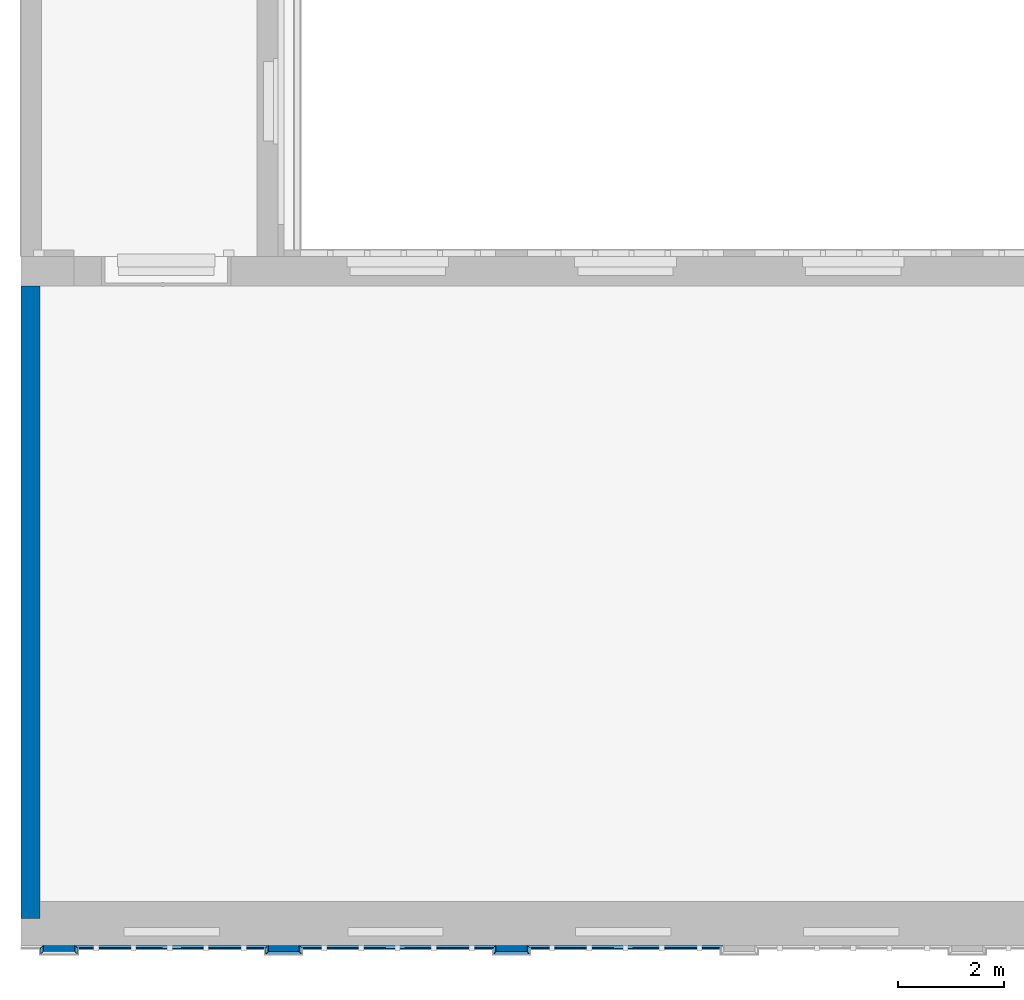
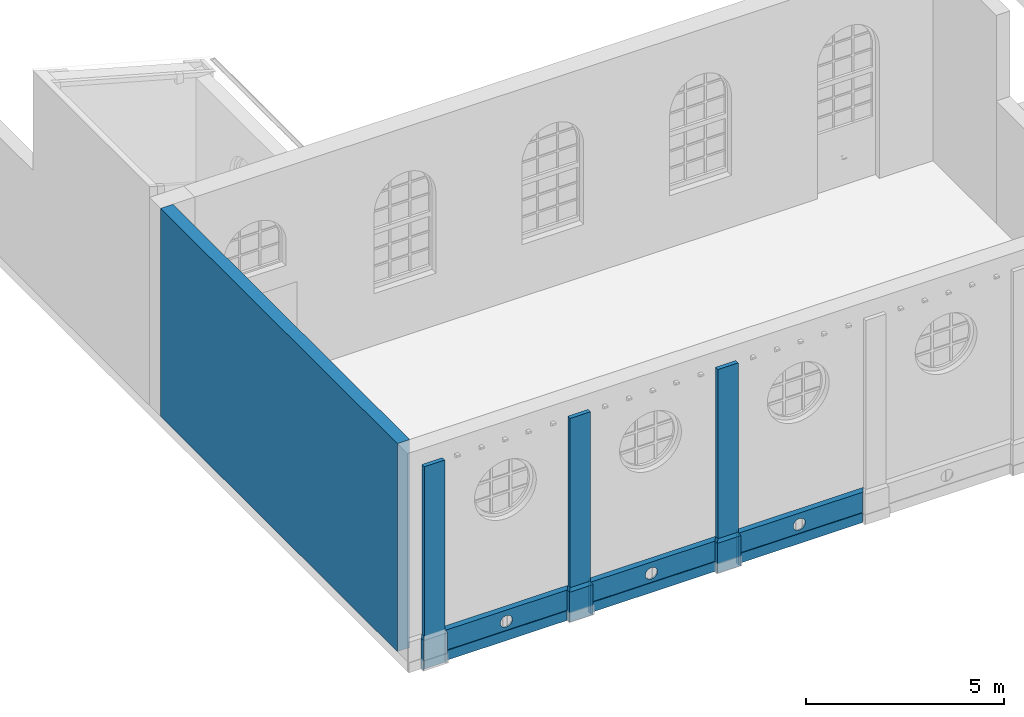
"""IFC4 building model written with IfcOpenShell, lengths in metres."""

from ifc_helpers import new_model, entity, si_unit, converted_unit, derived_unit, frame, frame_2d, origin, origin_with_axes, place, context, subcontext, project, spatial, polyline, rectangle, outline, extrude, clip, halfspace, material, layer, layer_set, layer_usage, element, save


model = new_model("IFC4")

# Units and contexts
model_context = context("Model", 3, precision=1e-05, world=origin())
body_context = subcontext(model_context, "Body", "Model", "MODEL_VIEW")
ifc_project = project(units=[si_unit("LENGTHUNIT", "METRE"), si_unit("AREAUNIT", "SQUARE_METRE"), si_unit("VOLUMEUNIT", "CUBIC_METRE"), si_unit("MASSUNIT", "GRAM", prefix="KILO"), converted_unit("PLANEANGLEUNIT", "DEGREE", entity("IfcPlaneAngleMeasure", 0.0174532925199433), si_unit("PLANEANGLEUNIT", "RADIAN"), dimensions=[0, 0, 0, 0, 0, 0, 0]), derived_unit("THERMALTRANSMITTANCEUNIT", [(si_unit("POWERUNIT", "WATT"), 1), (si_unit("THERMODYNAMICTEMPERATUREUNIT", "KELVIN"), -1), (si_unit("LENGTHUNIT", "METRE"), -2)]), derived_unit("VOLUMETRICFLOWRATEUNIT", [(si_unit("LENGTHUNIT", "METRE"), 3), (converted_unit("TIMEUNIT", "hour", entity("IfcTimeMeasure", 3600.0), si_unit("TIMEUNIT", "SECOND"), dimensions=[0, 0, 1, 0, 0, 0, 0]), -1), (si_unit("LENGTHUNIT", "METRE"), -1)])], contexts=[model_context])

# Building, storeys
building_placement = place(None, origin())
building = spatial("IfcBuilding", under=ifc_project, at=building_placement, Name="Bestandsgebäude A - Sporthalle / Wohnhaus (TB 100-499)   ANPASSEN !!!", CompositionType="ELEMENT")
storey_1_placement = place(building_placement, origin())
storey_1 = spatial("IfcBuildingStorey", under=building, at=storey_1_placement, Name="Geb. A Erdgeschoss (TB 200-249)", CompositionType="ELEMENT", Elevation=0.0)
storey_2_placement = place(storey_1_placement, origin())
storey_2 = spatial("IfcBuildingStorey", under=storey_1, at=storey_2_placement, Name="Architektur (TB 200-209)", CompositionType="PARTIAL")

# Walls
ifc_material_1 = material(Name="concrete")
ifc_layer_1 = layer(ifc_material_1, 0.36)
ifc_layer_set_1 = layer_set([ifc_layer_1])
ifc_layer_usage_1 = layer_usage(ifc_layer_set_1, "AXIS2", "POSITIVE", 0.0)
wall_1_placement = place(storey_2_placement, frame((-31.37, 12.44, 0.0), z_axis=(0.0, 0.0, 1.0), x_axis=(0.0, -1.0, 0.0)))
element("IfcWall", 1, at=wall_1_placement, inside=storey_2, material=ifc_layer_usage_1, Name="reinforced - bearing", PredefinedType="USERDEFINED", context=body_context, shape_type="SweptSolid", body=[
    extrude(rectangle(XDim=11.93, YDim=0.36, at=frame_2d((5.965, 0.18), x_axis=(1.0, 0.0))), origin_with_axes(), (0.0, 0.0, 1.0), 6.4),
])
ifc_material_2 = material(Name="concrete")
ifc_layer_2 = layer(ifc_material_2, 0.02)
ifc_layer_set_2 = layer_set([ifc_layer_2])
ifc_layer_usage_2 = layer_usage(ifc_layer_set_2, "AXIS2", "POSITIVE", 0.0)
wall_2_placement = place(storey_2_placement, frame((-26.775, -0.0500000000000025, -0.3), z_axis=(0.0, 0.0, 1.0), x_axis=(-1.0, -6.3249453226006e-16, 0.0)))
element("IfcWall", 2, at=wall_2_placement, inside=storey_2, material=ifc_layer_usage_2, Name="reinforced - bearing", PredefinedType="USERDEFINED", context=body_context, shape_type="SweptSolid", body=[
    extrude(rectangle(XDim=3.505, YDim=0.02, at=frame_2d((1.7525, 0.00999999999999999), x_axis=(1.0, 0.0))), origin_with_axes(), (0.0, 0.0, 1.0), 0.3),
])
ifc_material_3 = material(Name="concrete")
ifc_layer_3 = layer(ifc_material_3, 0.02)
ifc_layer_set_3 = layer_set([ifc_layer_3])
ifc_layer_usage_3 = layer_usage(ifc_layer_set_3, "AXIS2", "POSITIVE", 0.0)
wall_3_placement = place(storey_2_placement, frame((-22.455, -0.0500000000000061, -0.3), z_axis=(0.0, 0.0, 1.0), x_axis=(-1.0, 3.85949396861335e-16, 0.0)))
element("IfcWall", 3, at=wall_3_placement, inside=storey_2, material=ifc_layer_usage_3, Name="reinforced - bearing", PredefinedType="USERDEFINED", context=body_context, shape_type="SweptSolid", body=[
    extrude(rectangle(XDim=3.59, YDim=0.02, at=frame_2d((1.795, 0.01), x_axis=(1.0, 0.0))), origin_with_axes(), (0.0, 0.0, 1.0), 0.3),
])
ifc_material_4 = material(Name="concrete")
ifc_layer_4 = layer(ifc_material_4, 0.02)
ifc_layer_set_4 = layer_set([ifc_layer_4])
ifc_layer_usage_4 = layer_usage(ifc_layer_set_4, "AXIS2", "POSITIVE", 0.0)
wall_4_placement = place(storey_2_placement, frame((-18.175, -0.0500000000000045, -0.3), z_axis=(0.0, 0.0, 1.0), x_axis=(-1.0, -5.57288420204e-17, 0.0)))
element("IfcWall", 4, at=wall_4_placement, inside=storey_2, material=ifc_layer_usage_4, Name="reinforced - bearing", PredefinedType="USERDEFINED", context=body_context, shape_type="SweptSolid", body=[
    extrude(rectangle(XDim=3.57, YDim=0.02, at=frame_2d((1.785, 0.01), x_axis=(1.0, 0.0))), origin_with_axes(), (0.0, 0.0, 1.0), 0.3),
])
ifc_material_5 = material(Name="concrete")
ifc_layer_5 = layer(ifc_material_5, 0.05)
ifc_layer_set_5 = layer_set([ifc_layer_5])
ifc_layer_usage_5 = layer_usage(ifc_layer_set_5, "AXIS2", "POSITIVE", 0.0)
wall_5_placement = place(storey_2_placement, frame((-30.95, -0.119999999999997, -0.3), z_axis=(0.0, 0.0, 1.0), x_axis=(0.0, 1.0, 0.0)))
element("IfcWall", 5, at=wall_5_placement, inside=storey_2, material=ifc_layer_usage_5, Name="reinforced - bearing", PredefinedType="USERDEFINED", context=body_context, shape_type="Clipping", body=[
    clip(extrude(outline(polyline([(0.05, -0.05), (0.170000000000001, -0.05), (0.119999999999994, 0.0), (0.0, 0.0), (0.05, -0.05)])), frame((-0.05, 0.05, 0.0), z_axis=(0.0, 0.0, 1.0), x_axis=(1.0, 0.0, 0.0)), (0.0, 0.0, 1.0), 1.02), halfspace(frame((0.0349999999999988, 0.025, 0.97), z_axis=(0.0, -0.894427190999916, -0.447213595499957), x_axis=(1.0, 0.0, 0.0)), True)),
])
ifc_material_6 = material(Name="concrete")
ifc_layer_6 = layer(ifc_material_6, 0.05)
ifc_layer_set_6 = layer_set([ifc_layer_6])
ifc_layer_usage_6 = layer_usage(ifc_layer_set_6, "AXIS2", "POSITIVE", 0.0)
wall_6_placement = place(storey_2_placement, frame((-30.35, 0.0, -0.3), z_axis=(0.0, 0.0, 1.0), x_axis=(0.0, -1.0, 0.0)))
element("IfcWall", 6, at=wall_6_placement, inside=storey_2, material=ifc_layer_usage_6, Name="reinforced - bearing", PredefinedType="USERDEFINED", context=body_context, shape_type="Clipping", body=[
    clip(extrude(outline(polyline([(-0.170000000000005, 0.0), (-0.0500000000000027, 0.0), (0.0, 0.05), (-0.119999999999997, 0.05), (-0.170000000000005, 0.0)])), frame((0.170000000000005, 0.0, 0.0), z_axis=(0.0, 0.0, 1.0), x_axis=(1.0, 0.0, 0.0)), (0.0, 0.0, 1.0), 1.01999999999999), halfspace(frame((0.0850000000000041, 0.025, 0.969999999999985), z_axis=(8.30424224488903e-16, -0.894427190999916, -0.447213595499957), x_axis=(1.0, 0.0, 1.89478062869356e-15)), True)),
])

# Wall, opening
ifc_material_7 = material(Name="concrete")
ifc_layer_7 = layer(ifc_material_7, 0.05)
ifc_layer_set_7 = layer_set([ifc_layer_7])
ifc_layer_usage_7 = layer_usage(ifc_layer_set_7, "AXIS2", "POSITIVE", 0.0)
wall_7_placement = place(storey_2_placement, frame((-26.705, 0.0, -0.3), z_axis=(0.0, 0.0, 1.0), x_axis=(-1.0, 0.0, 0.0)))
wall_7 = element("IfcWall", 7, at=wall_7_placement, inside=storey_2, material=ifc_layer_usage_7, Name="reinforced - bearing", PredefinedType="USERDEFINED", context=body_context, shape_type="Clipping", body=[
    clip(extrude(outline(polyline([(-3.645, -0.05), (0.0, -0.05), (-0.05, 0.0), (-3.59500000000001, 0.0), (-3.645, -0.05)])), frame((3.645, 0.05, 0.0), z_axis=(0.0, 0.0, 1.0), x_axis=(1.0, 0.0, 0.0)), (0.0, 0.0, 1.0), 1.02), halfspace(frame((1.8225, 0.025, 0.97), z_axis=(0.0, -0.894427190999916, -0.447213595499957), x_axis=(1.0, 0.0, 0.0)), True)),
])
opening_1_placement = place(wall_7_placement, frame((1.6401188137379, 0.0, 0.4), z_axis=(0.0, 1.0, 0.0), x_axis=(0.0, 0.0, 1.0)))
element("IfcOpeningElement", 8, at=opening_1_placement, cuts=wall_7, Name="Window opening", PredefinedType="OPENING", context=body_context, shape_type="SweptSolid", body=[
    extrude(outline(polyline([(0.174999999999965, 0.35), (0.19329248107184, 0.349041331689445), (0.211384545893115, 0.346175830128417), (0.229077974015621, 0.341434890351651), (0.246178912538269, 0.334870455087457), (0.262499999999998, 0.326554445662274), (0.277862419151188, 0.316577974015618), (0.292097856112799, 0.305050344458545), (0.305050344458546, 0.292097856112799), (0.316577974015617, 0.277862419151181), (0.326554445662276, 0.2625), (0.334870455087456, 0.246178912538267), (0.341434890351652, 0.229077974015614), (0.346175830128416, 0.21138454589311), (0.349041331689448, 0.19329248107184), (0.35, 0.175), (0.349041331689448, 0.156707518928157), (0.346175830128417, 0.138615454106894), (0.341434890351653, 0.120922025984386), (0.334870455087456, 0.103821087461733), (0.326554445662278, 0.0875), (0.316577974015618, 0.0721375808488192), (0.305050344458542, 0.0579021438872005), (0.292097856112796, 0.0449496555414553), (0.277862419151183, 0.0334220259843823), (0.262500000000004, 0.0234455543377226), (0.246178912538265, 0.0151295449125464), (0.229077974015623, 0.00856510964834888), (0.211384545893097, 0.00382416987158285), (0.19329248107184, 0.000958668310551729), (0.175, 0.0), (0.156707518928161, 0.000958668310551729), (0.138615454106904, 0.00382416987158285), (0.120922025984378, 0.00856510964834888), (0.103821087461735, 0.0151295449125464), (0.0874999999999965, 0.0234455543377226), (0.0721375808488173, 0.0334220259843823), (0.0579021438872, 0.0449496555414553), (0.0449496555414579, 0.0579021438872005), (0.0334220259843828, 0.0721375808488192), (0.0234455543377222, 0.0875), (0.015129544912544, 0.103821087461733), (0.00856510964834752, 0.120922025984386), (0.00382416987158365, 0.138615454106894), (0.000958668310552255, 0.156707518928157), (0.0, 0.175), (0.000958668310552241, 0.19329248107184), (0.00382416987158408, 0.21138454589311), (0.00856510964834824, 0.229077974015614), (0.0151295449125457, 0.246178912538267), (0.0234455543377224, 0.2625), (0.0334220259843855, 0.277862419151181), (0.0449496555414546, 0.292097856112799), (0.0579021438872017, 0.305050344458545), (0.0721375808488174, 0.316577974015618), (0.0874999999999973, 0.326554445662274), (0.103821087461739, 0.334870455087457), (0.12092202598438, 0.341434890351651), (0.138615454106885, 0.346175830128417), (0.156707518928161, 0.349041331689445), (0.174999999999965, 0.35)])), origin_with_axes(), (0.0, 0.0, 1.0), 0.05),
])

# Walls
ifc_material_8 = material(Name="concrete")
ifc_layer_8 = layer(ifc_material_8, 0.05)
ifc_layer_set_8 = layer_set([ifc_layer_8])
ifc_layer_usage_8 = layer_usage(ifc_layer_set_8, "AXIS2", "POSITIVE", 0.0)
wall_8_placement = place(storey_2_placement, frame((-26.705, -0.119999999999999, -0.3), z_axis=(0.0, 0.0, 1.0), x_axis=(0.0, 1.0, 0.0)))
element("IfcWall", 9, at=wall_8_placement, inside=storey_2, material=ifc_layer_usage_8, Name="reinforced - bearing", PredefinedType="USERDEFINED", context=body_context, shape_type="Clipping", body=[
    clip(extrude(outline(polyline([(0.05, -0.05), (0.170000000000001, -0.05), (0.119999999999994, 0.0), (0.0, 0.0), (0.05, -0.05)])), frame((-0.05, 0.05, 0.0), z_axis=(0.0, 0.0, 1.0), x_axis=(1.0, 0.0, 0.0)), (0.0, 0.0, 1.0), 1.02), halfspace(frame((0.0349999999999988, 0.025, 0.97), z_axis=(0.0, -0.894427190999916, -0.447213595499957), x_axis=(1.0, 0.0, 0.0)), True)),
])
ifc_material_9 = material(Name="concrete")
ifc_layer_9 = layer(ifc_material_9, 0.05)
ifc_layer_set_9 = layer_set([ifc_layer_9])
ifc_layer_usage_9 = layer_usage(ifc_layer_set_9, "AXIS2", "POSITIVE", 0.0)
wall_9_placement = place(storey_2_placement, frame((-26.115, 0.0, -0.3), z_axis=(0.0, 0.0, 1.0), x_axis=(0.0, -1.0, 0.0)))
element("IfcWall", 10, at=wall_9_placement, inside=storey_2, material=ifc_layer_usage_9, Name="reinforced - bearing", PredefinedType="USERDEFINED", context=body_context, shape_type="Clipping", body=[
    clip(extrude(outline(polyline([(-0.170000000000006, 0.0), (-0.0500000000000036, 0.0), (0.0, 0.05), (-0.119999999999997, 0.05), (-0.170000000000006, 0.0)])), frame((0.170000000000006, 0.0, 0.0), z_axis=(0.0, 0.0, 1.0), x_axis=(1.0, 0.0, 0.0)), (0.0, 0.0, 1.0), 1.01999999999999), halfspace(frame((0.0850000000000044, 0.025, 0.969999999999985), z_axis=(8.30424224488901e-16, -0.894427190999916, -0.447213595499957), x_axis=(1.0, 0.0, 1.89478062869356e-15)), True)),
])
ifc_material_10 = material(Name="concrete")
ifc_layer_10 = layer(ifc_material_10, 0.05)
ifc_layer_set_10 = layer_set([ifc_layer_10])
ifc_layer_usage_10 = layer_usage(ifc_layer_set_10, "AXIS2", "POSITIVE", 0.0)
wall_10_placement = place(storey_2_placement, frame((-26.115, -0.119999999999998, -0.3), z_axis=(0.0, 0.0, 1.0), x_axis=(-1.0, 5.05810083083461e-16, 0.0)))
element("IfcWall", 11, at=wall_10_placement, inside=storey_2, material=ifc_layer_usage_10, Name="reinforced - bearing", PredefinedType="USERDEFINED", context=body_context, shape_type="Clipping", body=[
    clip(extrude(outline(polyline([(-0.64, -0.0500000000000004), (-0.05, -0.0500000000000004), (0.0, 0.0), (-0.689999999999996, 0.0), (-0.64, -0.0500000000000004)])), frame((0.64, 0.0500000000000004, 0.0), z_axis=(0.0, 0.0, 1.0), x_axis=(1.0, 0.0, 0.0)), (0.0, 0.0, 1.0), 1.02), halfspace(frame((0.295000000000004, 0.025, 0.97), z_axis=(3.40596953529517e-16, -0.894427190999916, -0.447213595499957), x_axis=(1.0, 0.0, 7.70758221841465e-16)), True)),
])
ifc_material_11 = material(Name="concrete")
ifc_layer_11 = layer(ifc_material_11, 0.05)
ifc_layer_set_11 = layer_set([ifc_layer_11])
ifc_layer_usage_11 = layer_usage(ifc_layer_set_11, "AXIS2", "POSITIVE", 0.0)
wall_11_placement = place(storey_2_placement, frame((-22.405, -0.119999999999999, -0.3), z_axis=(0.0, 0.0, 1.0), x_axis=(0.0, 1.0, 0.0)))
element("IfcWall", 12, at=wall_11_placement, inside=storey_2, material=ifc_layer_usage_11, Name="reinforced - bearing", PredefinedType="USERDEFINED", context=body_context, shape_type="Clipping", body=[
    clip(extrude(outline(polyline([(0.05, -0.05), (0.170000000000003, -0.05), (0.119999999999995, 0.0), (0.0, 0.0), (0.05, -0.05)])), frame((-0.05, 0.05, 0.0), z_axis=(0.0, 0.0, 1.0), x_axis=(1.0, 0.0, 0.0)), (0.0, 0.0, 1.0), 1.02000000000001), halfspace(frame((0.0349999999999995, 0.025, 0.970000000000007), z_axis=(0.0, -0.894427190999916, -0.447213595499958), x_axis=(1.0, 0.0, 0.0)), True)),
])
ifc_material_12 = material(Name="concrete")
ifc_layer_12 = layer(ifc_material_12, 0.05)
ifc_layer_set_12 = layer_set([ifc_layer_12])
ifc_layer_usage_12 = layer_usage(ifc_layer_set_12, "AXIS2", "POSITIVE", 0.0)
wall_12_placement = place(storey_2_placement, frame((-21.815, 0.0, -0.3), z_axis=(0.0, 0.0, 1.0), x_axis=(0.0, -1.0, 0.0)))
element("IfcWall", 13, at=wall_12_placement, inside=storey_2, material=ifc_layer_usage_12, Name="reinforced - bearing", PredefinedType="USERDEFINED", context=body_context, shape_type="Clipping", body=[
    clip(extrude(outline(polyline([(-0.170000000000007, 0.0), (-0.050000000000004, 0.0), (0.0, 0.05), (-0.119999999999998, 0.05), (-0.170000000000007, 0.0)])), frame((0.170000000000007, 0.0, 0.0), z_axis=(0.0, 0.0, 1.0), x_axis=(1.0, 0.0, 0.0)), (0.0, 0.0, 1.0), 1.01999999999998), halfspace(frame((0.0850000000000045, 0.025, 0.969999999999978), z_axis=(8.30424224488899e-16, -0.894427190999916, -0.447213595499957), x_axis=(1.0, 0.0, 1.89478062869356e-15)), True)),
])
ifc_material_13 = material(Name="concrete")
ifc_layer_13 = layer(ifc_material_13, 0.05)
ifc_layer_set_13 = layer_set([ifc_layer_13])
ifc_layer_usage_13 = layer_usage(ifc_layer_set_13, "AXIS2", "POSITIVE", 0.0)
wall_13_placement = place(storey_2_placement, frame((-21.815, -0.119999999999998, -0.3), z_axis=(0.0, 0.0, 1.0), x_axis=(-1.0, 5.05810083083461e-16, 0.0)))
element("IfcWall", 14, at=wall_13_placement, inside=storey_2, material=ifc_layer_usage_13, Name="reinforced - bearing", PredefinedType="USERDEFINED", context=body_context, shape_type="Clipping", body=[
    clip(extrude(outline(polyline([(-0.64, -0.0500000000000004), (-0.05, -0.0500000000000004), (0.0, 0.0), (-0.689999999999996, 0.0), (-0.64, -0.0500000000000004)])), frame((0.64, 0.0500000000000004, 0.0), z_axis=(0.0, 0.0, 1.0), x_axis=(1.0, 0.0, 0.0)), (0.0, 0.0, 1.0), 1.02), halfspace(frame((0.295, 0.025, 0.97), z_axis=(3.40596953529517e-16, -0.894427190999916, -0.447213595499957), x_axis=(1.0, 0.0, 7.70758221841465e-16)), True)),
])

# Wall, opening
ifc_material_14 = material(Name="concrete")
ifc_layer_14 = layer(ifc_material_14, 0.05)
ifc_layer_set_14 = layer_set([ifc_layer_14])
ifc_layer_usage_14 = layer_usage(ifc_layer_set_14, "AXIS2", "POSITIVE", 0.0)
wall_14_placement = place(storey_2_placement, frame((-22.405, 0.0, -0.3), z_axis=(0.0, 0.0, 1.0), x_axis=(-1.0, 4.89858719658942e-16, 0.0)))
wall_14 = element("IfcWall", 15, at=wall_14_placement, inside=storey_2, material=ifc_layer_usage_14, Name="reinforced - bearing", PredefinedType="USERDEFINED", context=body_context, shape_type="Clipping", body=[
    clip(extrude(outline(polyline([(-3.71, -0.0500000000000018), (0.0, -0.0500000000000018), (-0.05, 0.0), (-3.66000000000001, 0.0), (-3.71, -0.0500000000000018)])), frame((3.71, 0.0500000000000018, 0.0), z_axis=(0.0, 0.0, 1.0), x_axis=(1.0, 0.0, 0.0)), (0.0, 0.0, 1.0), 1.02), halfspace(frame((1.855, 0.025, 0.970000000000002), z_axis=(4.38698612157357e-16, -0.894427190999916, -0.447213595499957), x_axis=(1.0, -4.34920110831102e-19, 9.80587279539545e-16)), True)),
])
opening_2_placement = place(wall_14_placement, frame((1.71985733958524, 0.0, 0.4), z_axis=(0.0, 1.0, 0.0), x_axis=(0.0, 0.0, 1.0)))
element("IfcOpeningElement", 16, at=opening_2_placement, cuts=wall_14, Name="Window opening", PredefinedType="OPENING", context=body_context, shape_type="SweptSolid", body=[
    extrude(outline(polyline([(0.175, 0.35), (0.193292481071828, 0.349041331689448), (0.211384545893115, 0.346175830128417), (0.229077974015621, 0.341434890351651), (0.246178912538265, 0.334870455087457), (0.262500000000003, 0.326554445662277), (0.277862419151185, 0.316577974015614), (0.292097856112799, 0.305050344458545), (0.305050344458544, 0.292097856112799), (0.316577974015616, 0.277862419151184), (0.326554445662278, 0.2625), (0.334870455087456, 0.246178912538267), (0.341434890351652, 0.229077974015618), (0.346175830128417, 0.211384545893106), (0.349041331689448, 0.19329248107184), (0.35, 0.175), (0.349041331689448, 0.156707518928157), (0.346175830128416, 0.138615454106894), (0.341434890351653, 0.120922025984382), (0.334870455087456, 0.103821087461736), (0.326554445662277, 0.0874999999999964), (0.316577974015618, 0.0721375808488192), (0.305050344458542, 0.0579021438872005), (0.2920978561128, 0.0449496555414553), (0.277862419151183, 0.0334220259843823), (0.2625, 0.0234455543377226), (0.24617891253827, 0.0151295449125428), (0.229077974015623, 0.00856510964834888), (0.211384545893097, 0.00382416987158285), (0.19329248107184, 0.000958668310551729), (0.175, 0.0), (0.156707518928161, 0.000958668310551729), (0.138615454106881, 0.00382416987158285), (0.120922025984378, 0.00856510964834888), (0.10382108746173, 0.0151295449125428), (0.0875000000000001, 0.0234455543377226), (0.0721375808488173, 0.0334220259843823), (0.0579021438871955, 0.0449496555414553), (0.0449496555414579, 0.0579021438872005), (0.0334220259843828, 0.0721375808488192), (0.0234455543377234, 0.0874999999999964), (0.015129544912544, 0.103821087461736), (0.00856510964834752, 0.120922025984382), (0.0038241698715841, 0.138615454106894), (0.000958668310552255, 0.156707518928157), (0.0, 0.175), (0.00095866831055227, 0.19329248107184), (0.00382416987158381, 0.211384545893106), (0.00856510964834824, 0.229077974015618), (0.015129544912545, 0.246178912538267), (0.0234455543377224, 0.2625), (0.0334220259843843, 0.277862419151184), (0.0449496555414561, 0.292097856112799), (0.0579021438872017, 0.305050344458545), (0.0721375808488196, 0.316577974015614), (0.0874999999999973, 0.326554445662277), (0.103821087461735, 0.334870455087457), (0.12092202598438, 0.341434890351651), (0.138615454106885, 0.346175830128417), (0.156707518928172, 0.349041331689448), (0.175, 0.35)])), origin_with_axes(), (0.0, 0.0, 1.0), 0.05),
])

ifc_material_15 = material(Name="concrete")
ifc_layer_15 = layer(ifc_material_15, 0.05)
ifc_layer_set_15 = layer_set([ifc_layer_15])
ifc_layer_usage_15 = layer_usage(ifc_layer_set_15, "AXIS2", "POSITIVE", 0.0)
wall_15_placement = place(storey_2_placement, frame((-18.105, 0.0, -0.3), z_axis=(0.0, 0.0, 1.0), x_axis=(-1.0, 4.89858719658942e-16, 0.0)))
wall_15 = element("IfcWall", 17, at=wall_15_placement, inside=storey_2, material=ifc_layer_usage_15, Name="reinforced - bearing", PredefinedType="USERDEFINED", context=body_context, shape_type="Clipping", body=[
    clip(extrude(outline(polyline([(-3.70999999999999, -0.0500000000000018), (0.0, -0.0500000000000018), (-0.05, 0.0), (-3.66, 0.0), (-3.70999999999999, -0.0500000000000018)])), frame((3.70999999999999, 0.0500000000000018, 0.0), z_axis=(0.0, 0.0, 1.0), x_axis=(1.0, 0.0, 0.0)), (0.0, 0.0, 1.0), 1.02), halfspace(frame((1.85499999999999, 0.025, 0.970000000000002), z_axis=(4.38698612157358e-16, -0.894427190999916, -0.447213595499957), x_axis=(1.0, -4.34920110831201e-19, 9.80587279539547e-16)), True)),
])
opening_3_placement = place(wall_15_placement, frame((1.71987495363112, 0.0, 0.4), z_axis=(0.0, 1.0, 0.0), x_axis=(0.0, 0.0, 1.0)))
element("IfcOpeningElement", 18, at=opening_3_placement, cuts=wall_15, Name="Window opening", PredefinedType="OPENING", context=body_context, shape_type="SweptSolid", body=[
    extrude(outline(polyline([(0.175, 0.35), (0.193292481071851, 0.349041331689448), (0.211384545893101, 0.346175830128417), (0.229077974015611, 0.341434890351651), (0.246178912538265, 0.334870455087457), (0.2625, 0.326554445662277), (0.277862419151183, 0.316577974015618), (0.292097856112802, 0.305050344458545), (0.305050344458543, 0.292097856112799), (0.316577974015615, 0.277862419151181), (0.326554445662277, 0.2625), (0.334870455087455, 0.246178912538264), (0.341434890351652, 0.229077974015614), (0.346175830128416, 0.21138454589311), (0.349041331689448, 0.19329248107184), (0.35, 0.175), (0.349041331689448, 0.15670751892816), (0.346175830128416, 0.138615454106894), (0.341434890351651, 0.120922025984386), (0.334870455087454, 0.103821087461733), (0.326554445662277, 0.0875), (0.316577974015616, 0.0721375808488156), (0.305050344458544, 0.0579021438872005), (0.292097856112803, 0.0449496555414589), (0.277862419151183, 0.0334220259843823), (0.2625, 0.0234455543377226), (0.246178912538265, 0.0151295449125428), (0.229077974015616, 0.00856510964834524), (0.21138454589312, 0.00382416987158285), (0.19329248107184, 0.000958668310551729), (0.175, 0.0), (0.156707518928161, 0.000958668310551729), (0.138615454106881, 0.00382416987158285), (0.120922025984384, 0.00856510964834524), (0.103821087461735, 0.0151295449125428), (0.0875000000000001, 0.0234455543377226), (0.0721375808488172, 0.0334220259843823), (0.0579021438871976, 0.0449496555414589), (0.044949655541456, 0.0579021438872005), (0.0334220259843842, 0.0721375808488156), (0.0234455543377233, 0.0875), (0.0151295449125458, 0.103821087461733), (0.00856510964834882, 0.120922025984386), (0.00382416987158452, 0.138615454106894), (0.000958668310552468, 0.15670751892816), (0.0, 0.175), (0.000958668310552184, 0.19329248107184), (0.00382416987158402, 0.21138454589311), (0.00856510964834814, 0.229077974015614), (0.0151295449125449, 0.246178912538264), (0.0234455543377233, 0.2625), (0.0334220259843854, 0.277862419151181), (0.0449496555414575, 0.292097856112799), (0.057902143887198, 0.305050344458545), (0.0721375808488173, 0.316577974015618), (0.0875, 0.326554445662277), (0.103821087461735, 0.334870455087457), (0.120922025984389, 0.341434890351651), (0.138615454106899, 0.346175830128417), (0.156707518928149, 0.349041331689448), (0.175, 0.35)])), origin_with_axes(), (0.0, 0.0, 1.0), 0.05),
])

# Walls
ifc_material_16 = material(Name="concrete")
ifc_layer_16 = layer(ifc_material_16, 0.12)
ifc_layer_set_16 = layer_set([ifc_layer_16])
ifc_layer_usage_16 = layer_usage(ifc_layer_set_16, "AXIS2", "POSITIVE", 0.0)
wall_16_placement = place(storey_2_placement, frame((-26.705, -0.119999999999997, 0.0)))
element("IfcWall", 19, at=wall_16_placement, inside=storey_2, material=ifc_layer_usage_16, Name="reinforced - bearing", PredefinedType="USERDEFINED", context=body_context, shape_type="SweptSolid", body=[
    extrude(rectangle(XDim=0.59, YDim=0.12, at=frame_2d((0.295, 0.06), x_axis=(1.0, 0.0))), origin_with_axes(), (0.0, 0.0, 1.0), 5.92),
])
ifc_material_17 = material(Name="concrete")
ifc_layer_17 = layer(ifc_material_17, 0.12)
ifc_layer_set_17 = layer_set([ifc_layer_17])
ifc_layer_usage_17 = layer_usage(ifc_layer_set_17, "AXIS2", "POSITIVE", 0.0)
wall_17_placement = place(storey_2_placement, frame((-22.405, -0.119999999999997, 0.0)))
element("IfcWall", 20, at=wall_17_placement, inside=storey_2, material=ifc_layer_usage_17, Name="reinforced - bearing", PredefinedType="USERDEFINED", context=body_context, shape_type="SweptSolid", body=[
    extrude(rectangle(XDim=0.589999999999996, YDim=0.12, at=frame_2d((0.294999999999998, 0.06), x_axis=(1.0, 0.0))), origin_with_axes(), (0.0, 0.0, 1.0), 5.92),
])
ifc_material_18 = material(Name="concrete")
ifc_layer_18 = layer(ifc_material_18, 0.12)
ifc_layer_set_18 = layer_set([ifc_layer_18])
ifc_layer_usage_18 = layer_usage(ifc_layer_set_18, "AXIS2", "POSITIVE", 0.0)
wall_18_placement = place(storey_2_placement, frame((-30.95, -0.119999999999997, -0.3)))
element("IfcWall", 21, at=wall_18_placement, inside=storey_2, material=ifc_layer_usage_18, Name="reinforced - bearing", PredefinedType="USERDEFINED", context=body_context, shape_type="SweptSolid", body=[
    extrude(rectangle(XDim=0.600000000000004, YDim=0.12, at=frame_2d((0.300000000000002, 0.06), x_axis=(1.0, 0.0))), origin_with_axes(), (0.0, 0.0, 1.0), 6.22),
])

save(model, "model.ifc")
